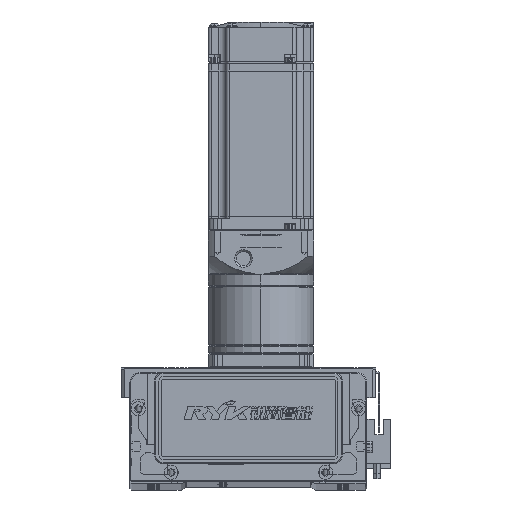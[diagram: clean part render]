
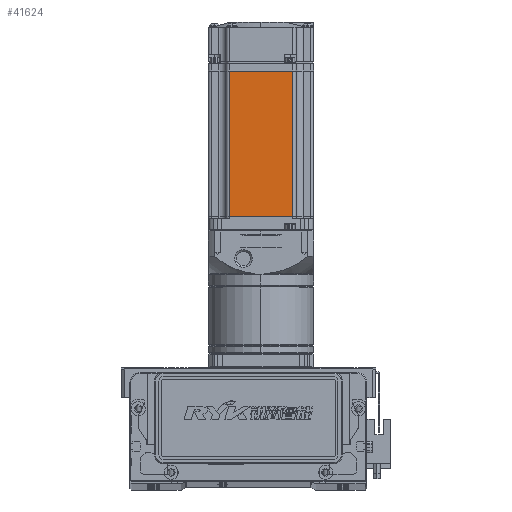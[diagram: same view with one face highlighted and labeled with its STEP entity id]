
A CAD part, top view. The second image highlights one B-rep face of the part: STEP entity #41624.
In plain terms, the highlighted planar face has unit normal (0, 0, 1).
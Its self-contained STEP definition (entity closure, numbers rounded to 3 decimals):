
#4669 = VECTOR ( 'NONE', #71117, 1000. ) ;
#9068 = PLANE ( 'NONE',  #71876 ) ;
#10264 = CARTESIAN_POINT ( 'NONE',  ( -90.45, 0., 30. ) ) ;
#14582 = EDGE_CURVE ( 'NONE', #46180, #24906, #63572, .T. ) ;
#19245 = EDGE_CURVE ( 'NONE', #19278, #78359, #78386, .T. ) ;
#19278 = VERTEX_POINT ( 'NONE', #20195 ) ;
#20195 = CARTESIAN_POINT ( 'NONE',  ( -7.75, 18., 30. ) ) ;
#20526 = EDGE_CURVE ( 'NONE', #78359, #24906, #62509, .T. ) ;
#21172 = DIRECTION ( 'NONE',  ( 0., 0., 1. ) ) ;
#22518 = VECTOR ( 'NONE', #30219, 1000. ) ;
#24906 = VERTEX_POINT ( 'NONE', #53186 ) ;
#27802 = DIRECTION ( 'NONE',  ( -1., 0., 0. ) ) ;
#30219 = DIRECTION ( 'NONE',  ( 0., -1., 0. ) ) ;
#34965 = CARTESIAN_POINT ( 'NONE',  ( -6.5, -25., 30. ) ) ;
#35587 = CARTESIAN_POINT ( 'NONE',  ( -7.75, 0., 30. ) ) ;
#41624 = ADVANCED_FACE ( 'NONE', ( #51660 ), #9068, .T. ) ;
#44101 = ORIENTED_EDGE ( 'NONE', *, *, #19245, .T. ) ;
#46180 = VERTEX_POINT ( 'NONE', #64749 ) ;
#48505 = DIRECTION ( 'NONE',  ( 0., -1., 0. ) ) ;
#51660 = FACE_OUTER_BOUND ( 'NONE', #55526, .T. ) ;
#53186 = CARTESIAN_POINT ( 'NONE',  ( -90.45, -18., 30. ) ) ;
#53287 = ORIENTED_EDGE ( 'NONE', *, *, #75370, .F. ) ;
#55526 = EDGE_LOOP ( 'NONE', ( #53287, #44101, #62255, #64261 ) ) ;
#61325 = CARTESIAN_POINT ( 'NONE',  ( -6.5, 18., 30. ) ) ;
#62255 = ORIENTED_EDGE ( 'NONE', *, *, #20526, .T. ) ;
#62509 = LINE ( 'NONE', #10264, #22518 ) ;
#63572 = LINE ( 'NONE', #83774, #4669 ) ;
#64261 = ORIENTED_EDGE ( 'NONE', *, *, #14582, .F. ) ;
#64718 = VECTOR ( 'NONE', #27802, 1000. ) ;
#64749 = CARTESIAN_POINT ( 'NONE',  ( -7.75, -18., 30. ) ) ;
#66875 = VECTOR ( 'NONE', #48505, 1000. ) ;
#68807 = CARTESIAN_POINT ( 'NONE',  ( -90.45, 18., 30. ) ) ;
#71117 = DIRECTION ( 'NONE',  ( -1., 0., 0. ) ) ;
#71876 = AXIS2_PLACEMENT_3D ( 'NONE', #34965, #21172, #74977 ) ;
#74977 = DIRECTION ( 'NONE',  ( 1., 0., 0. ) ) ;
#75370 = EDGE_CURVE ( 'NONE', #19278, #46180, #83752, .T. ) ;
#78359 = VERTEX_POINT ( 'NONE', #68807 ) ;
#78386 = LINE ( 'NONE', #61325, #64718 ) ;
#83752 = LINE ( 'NONE', #35587, #66875 ) ;
#83774 = CARTESIAN_POINT ( 'NONE',  ( -6.5, -18., 30. ) ) ;
